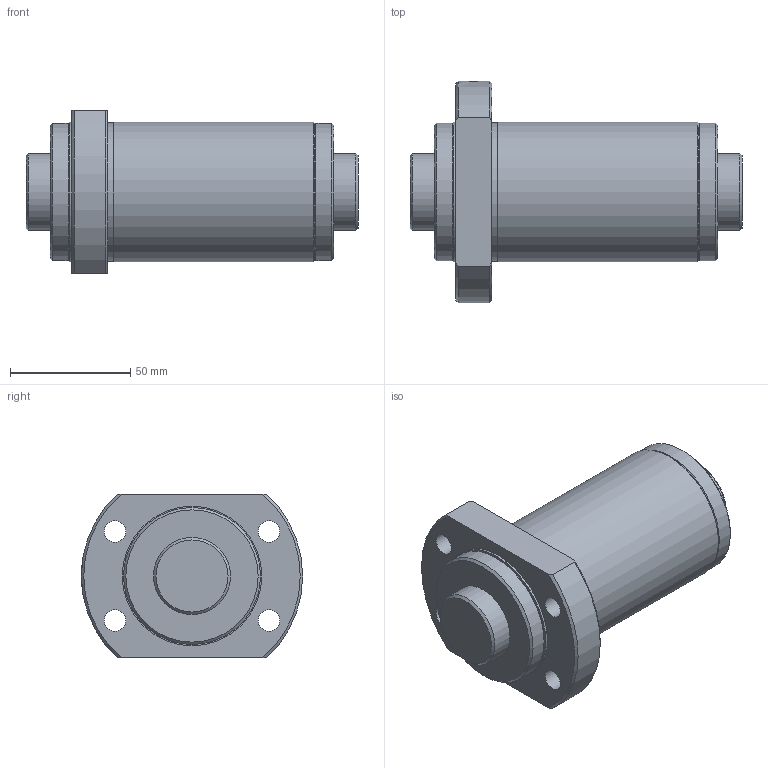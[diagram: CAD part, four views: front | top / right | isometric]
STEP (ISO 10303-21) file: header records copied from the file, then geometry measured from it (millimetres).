
FILE_DESCRIPTION(/* description */ ('STEP AP203'),/* implementation_level */ '2;1');
FILE_NAME(/* name */ 'SBK3232-5.6RRG0+138LC0(0000)',/* time_stamp */ '2024-05-28T11:19:59+02:00',/* author */ ('License CC BY-ND 4.0'),/* organization */ ('CADENAS'),/* preprocessor_version */ 'ST-DEVELOPER v19.3',/* originating_system */ 'PARTsolutions',/* authorisation */ ' ');
FILE_SCHEMA (('CONFIG_CONTROL_DESIGN'));
Length unit declared in the file: millimetre
Products named in the file (3): SBK3232-5.6RRG0+138LC0(0000); NRR000SBK 3232-5.60Shaft; NRR000SBK 3232-5.6Nut
Assembly tree (2 placements, depth 2):
  SBK3232-5.6RRG0+138LC0(0000)
    NRR000SBK 3232-5.60Shaft
    NRR000SBK 3232-5.6Nut
Bounding box: 138 x 92 x 68 mm (x, y, z)
Volume: 366377.2 mm3; surface area: 61110.6 mm2
Topology: 2 solids, 2 shells, 38 faces, 79 edges, 50 vertices
Faces by surface type: cylinder 14, cone 13, plane 11
Full cylindrical faces by diameter (mm): 4.917 x1, 9 x4, 32 x2, 57 x2, 57.6 x1, 58 x2
Entity records: 1010 total; most frequent: CARTESIAN_POINT 180, DIRECTION 168, ORIENTED_EDGE 112, AXIS2_PLACEMENT_3D 80, FACE_BOUND 75, EDGE_LOOP 74, EDGE_CURVE 56, VERTEX_POINT 49
